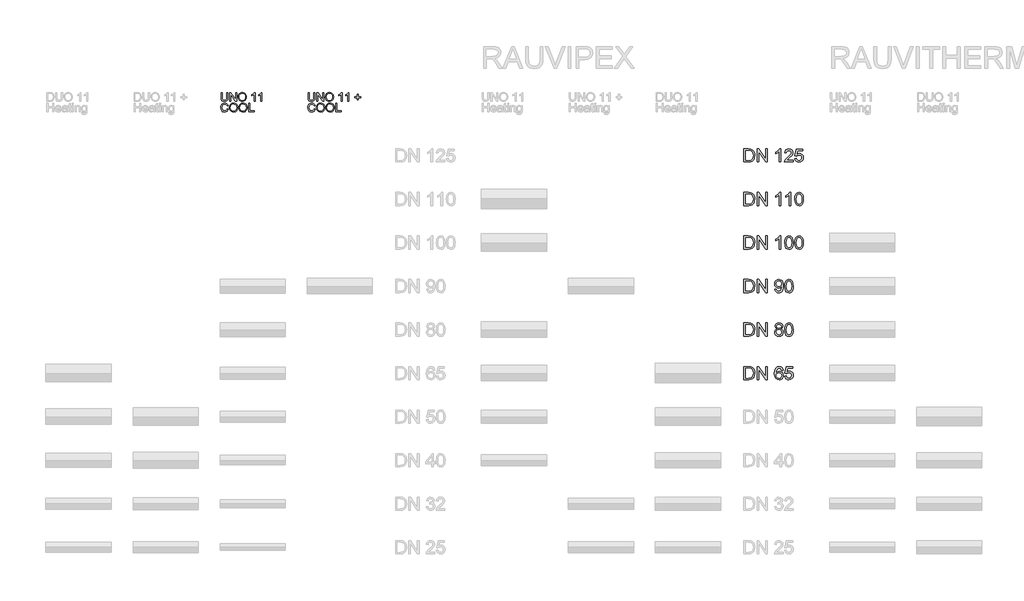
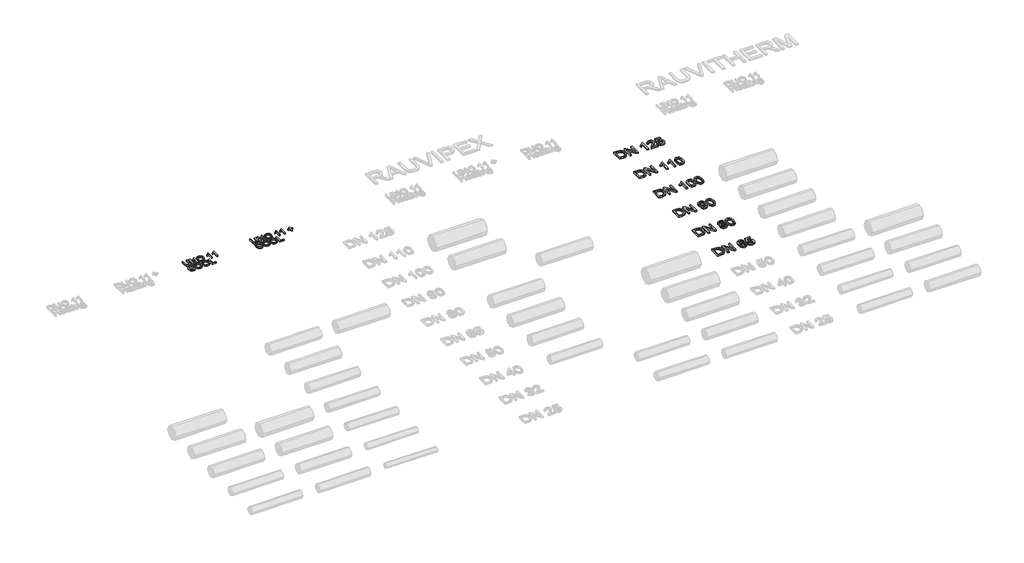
# One storey, part 37 of 44: 8 proxies.
"""IFC4 building model written with IfcOpenShell, lengths in millimetres."""

import ifcopenshell
import ifcopenshell.guid

model = None  # the IFC model being written
_history = None  # IfcOwnerHistory: only IFC2X3 demands one
_inside = {}  # id of a spatial element -> (the spatial element, [elements in it])
_under = {}  # id of a project, library or spatial element -> (it, [spatial elements below it])
_declared = {}  # id of a project -> (the project, [libraries it declares])
_typed = {}  # id of a type object -> (the type object, [elements of that type])
_made_of = {}  # id of a material, layer set ... -> (it, [elements and type objects made of it])


def new_model(schema):
    """Start an empty IFC model of exactly this schema.

    Asked for "IFC4X3", IfcOpenShell would pick the latest addendum, in which some entities
    have other attributes; the version numbers below select the first issue.
    IFC2X3 requires an IfcOwnerHistory on every rooted entity: one is made here for all.
    """
    global model, _history
    if schema == "IFC4X3":
        model = ifcopenshell.file(schema_version=(4, 3, 0, 0))
    else:
        model = ifcopenshell.file(schema=schema)
    _inside.clear()
    _under.clear()
    _declared.clear()
    _typed.clear()
    _made_of.clear()
    _history = None
    if model.schema == "IFC2X3":
        org = make("IfcOrganization", Name="unknown")
        user = make(
            "IfcPersonAndOrganization",
            ThePerson=make("IfcPerson", FamilyName="unknown"),
            TheOrganization=org,
        )
        app = make(
            "IfcApplication",
            ApplicationDeveloper=org,
            Version="unknown",
            ApplicationFullName="unknown",
            ApplicationIdentifier="unknown",
        )
        _history = make(
            "IfcOwnerHistory",
            OwningUser=user,
            OwningApplication=app,
            ChangeAction="ADDED",
            CreationDate=0,
        )
    return model


def make(cls, **values):
    """One entity of the class cls with the attributes given. An attribute that is None is left unset."""
    return model.create_entity(
        cls, **{name: value for name, value in values.items() if value is not None}
    )


def rooted(cls, **values):
    """An entity with a GlobalId (a new one), such as an element, a storey or a relation."""
    return make(cls, GlobalId=ifcopenshell.guid.new(), OwnerHistory=_history, **values)


def si_unit(unit_type, name, prefix=None):
    """IfcSIUnit, for example si_unit("LENGTHUNIT", "METRE", prefix="MILLI")."""
    return make("IfcSIUnit", UnitType=unit_type, Prefix=prefix, Name=name)


def assignment(units):
    """IfcUnitAssignment: the units of a project."""
    return None if units is None else make("IfcUnitAssignment", Units=units)


def point(xyz):
    """IfcCartesianPoint."""
    return None if xyz is None else make("IfcCartesianPoint", Coordinates=xyz)


def direction(xyz):
    """IfcDirection."""
    return None if xyz is None else make("IfcDirection", DirectionRatios=xyz)


def frame(location, z_axis=None, x_axis=None):
    """IfcAxis2Placement3D, a coordinate frame: its origin and axes. An axis left out is left unset."""
    return make(
        "IfcAxis2Placement3D",
        Location=point(location),
        Axis=direction(z_axis),
        RefDirection=direction(x_axis),
    )


def origin():
    """The frame at (0, 0, 0) with its axes left unset."""
    return frame((0.0, 0.0, 0.0))


def origin_with_axes():
    """The frame at (0, 0, 0) with the z axis (0, 0, 1) and the x axis (1, 0, 0) written out."""
    return frame((0.0, 0.0, 0.0), z_axis=(0.0, 0.0, 1.0), x_axis=(1.0, 0.0, 0.0))


def place(relative_to, where):
    """IfcLocalPlacement: puts the frame where relative to a parent placement (None: the world)."""
    return make(
        "IfcLocalPlacement", PlacementRelTo=relative_to, RelativePlacement=where
    )


def context(
    kind, dimensions, precision=None, world=None, true_north=None, identifier=None
):
    """IfcGeometricRepresentationContext, for example the 3D "Model" context."""
    return make(
        "IfcGeometricRepresentationContext",
        ContextIdentifier=identifier,
        ContextType=kind,
        CoordinateSpaceDimension=dimensions,
        Precision=precision,
        WorldCoordinateSystem=world,
        TrueNorth=true_north,
    )


def project(units=None, contexts=None):
    """IfcProject with its units and contexts."""
    return rooted(
        "IfcProject",
        Name="project",
        RepresentationContexts=contexts,
        UnitsInContext=assignment(units),
    )


def spatial(cls, under=None, at=None, **own):
    """A site, building, storey or space (cls), placed at a placement, below another one or the project."""
    s = rooted(cls, ObjectPlacement=at, **own)
    if under is not None:
        _under.setdefault(under.id(), (under, []))[1].append(s)
    return s


def polyline(points):
    """IfcPolyline through the points."""
    return make("IfcPolyline", Points=[point(p) for p in points])


def outline(outer, holes=None, kind="AREA"):
    """IfcArbitraryClosedProfileDef: a profile drawn as a closed curve; with holes, ...WithVoids."""
    if holes is None:
        return make("IfcArbitraryClosedProfileDef", ProfileType=kind, OuterCurve=outer)
    return make(
        "IfcArbitraryProfileDefWithVoids",
        ProfileType=kind,
        OuterCurve=outer,
        InnerCurves=holes,
    )


def extrude(swept, where, along, depth):
    """IfcExtrudedAreaSolid: the profile swept, set in the frame where, extruded along a direction by depth."""
    return make(
        "IfcExtrudedAreaSolid",
        SweptArea=swept,
        Position=where,
        ExtrudedDirection=direction(along),
        Depth=depth,
    )


def shape(context_of_items, identifier, shape_type, items):
    """IfcShapeRepresentation: the items that make up one representation, for example the "Body"."""
    return make(
        "IfcShapeRepresentation",
        ContextOfItems=context_of_items,
        RepresentationIdentifier=identifier,
        RepresentationType=shape_type,
        Items=items,
    )


def made_of(thing, what):
    """Note that an element or type object is made of a material, layer set ...; save() writes the relation."""
    if what is not None:
        _made_of.setdefault(what.id(), (what, []))[1].append(thing)
    return thing


def element(
    cls,
    number,
    at=None,
    inside=None,
    cuts=None,
    type_object=None,
    material=None,
    context=None,
    identifier="Body",
    shape_type=None,
    held_by="IfcProductDefinitionShape",
    body=None,
    shapes=None,
    **own,
):
    """One element of the class cls, such as IfcWall. Its Tag is "e" and its number.

    at: its placement. inside: the storey or other place that contains it. cuts: it is an
    opening in that element (IfcRelVoidsElement). A single representation is given by context,
    identifier, shape_type and body (its items); several are given by shapes. held_by: the class
    of the entity that holds the representations. save() writes the other relations.
    """
    e = rooted(cls, Tag="e%d" % number, ObjectPlacement=at, **own)
    if body is not None:
        shapes = [shape(context, identifier, shape_type, body)]
    if shapes is not None:
        e.Representation = make(held_by, Representations=shapes)
    if inside is not None:
        _inside.setdefault(inside.id(), (inside, []))[1].append(e)
    if cuts is not None:
        rooted(
            "IfcRelVoidsElement", RelatingBuildingElement=cuts, RelatedOpeningElement=e
        )
    if type_object is not None:
        _typed.setdefault(type_object.id(), (type_object, []))[1].append(e)
    return made_of(e, material)


def aggregate(whole, parts):
    """IfcRelAggregates: a whole, such as a stair, and the parts it consists of."""
    return rooted("IfcRelAggregates", RelatingObject=whole, RelatedObjects=parts)


def save(model, path):
    """Write the relations noted so far, then the file.

    IfcRelAggregates (storeys below a building ...), IfcRelContainedInSpatialStructure (elements
    in a storey), IfcRelDefinesByType, IfcRelAssociatesMaterial and IfcRelDeclares: one each for
    every whole, place, type object, material and project.
    """
    for whole, parts in _under.values():
        aggregate(whole, parts)
    for where, things in _inside.values():
        rooted(
            "IfcRelContainedInSpatialStructure",
            RelatedElements=things,
            RelatingStructure=where,
        )
    for kind, things in _typed.values():
        rooted("IfcRelDefinesByType", RelatedObjects=things, RelatingType=kind)
    for what, things in _made_of.values():
        rooted("IfcRelAssociatesMaterial", RelatedObjects=things, RelatingMaterial=what)
    for by, libraries in _declared.values():
        rooted("IfcRelDeclares", RelatingContext=by, RelatedDefinitions=libraries)
    model.write(path)


model = new_model("IFC4")

# Units and contexts
model_context = context("Model", 3, world=origin())
ifc_project = project(units=[si_unit("LENGTHUNIT", "METRE", prefix="MILLI")], contexts=[model_context])

# Site, building, storey
site = spatial("IfcSite", under=ifc_project)
building = spatial("IfcBuilding", under=site)
storey = spatial("IfcBuildingStorey", under=building, Name="REHAU Starting view", Elevation=0.0)

# Proxies
placement = place(None, origin())
element("IfcBuildingElementProxy", 1, Name="100", ObjectType="100", at=placement, inside=storey, context=model_context, shape_type="SweptSolid", body=[
    extrude(outline(polyline([(24076.9118625, 20222.431128), (24089.4689012, 20222.431128), (24089.4689012, 20164.477451), (24086.0598614, 20140.4547567), (24073.7726028, 20125.9847316), (24063.5086951, 20121.8000739), (24050.4734097, 20120.405188), (24027.529836, 20125.2612303), (24019.8901532, 20131.2055902), (24014.8011189, 20139.3265853), (24010.9874089, 20164.477451), (24010.9874089, 20222.431128), (24023.5444477, 20222.431128), (24023.5444477, 20164.9189094), (24026.0215198, 20145.7767829), (24034.5318566, 20136.2976902), (24049.2961874, 20132.9622268), (24062.067824, 20134.6115644), (24070.5597667, 20139.5595772), (24075.3238385, 20149.1980855), (24076.9118625, 20164.9189094), (24076.9118625, 20222.431128)])), origin_with_axes(), (0.0, 0.0, 1.0), 20.0),
    extrude(outline(polyline([(24111.4437191, 20121.9748178), (24111.4437191, 20222.431128), (24124.8836746, 20222.431128), (24177.3681726, 20142.8459897), (24177.3681726, 20222.431128), (24189.9252114, 20222.431128), (24189.9252114, 20121.9748178), (24176.4852558, 20121.9748178), (24124.0007578, 20201.5844816), (24124.0007578, 20121.9748178), (24111.4437191, 20121.9748178)])), origin_with_axes(), (0.0, 0.0, 1.0), 20.0),
    extrude(outline(polyline([(24207.1911397, 20170.8785977), (24210.5388658, 20193.0925389), (24220.5820443, 20209.8986147), (24235.9165921, 20220.4752221), (24255.1384264, 20224.0007578), (24268.3147332, 20222.3452889), (24280.1298766, 20217.3788819), (24289.9400631, 20209.4510249), (24297.1014993, 20198.9112058), (24301.479295, 20186.2683279), (24302.9385603, 20172.0312947), (24301.402653, 20157.6041891), (24296.794931, 20144.7835015), (24289.369846, 20134.2252883), (24279.3818499, 20126.5856055), (24267.667874, 20121.9502924), (24255.06485, 20120.405188), (24241.6862081, 20122.1127736), (24229.8036197, 20127.2355304), (24220.0179586, 20135.3105402), (24212.9300988, 20145.8748848), (24207.1911397, 20170.8785977)]), holes=[polyline([(24219.7481785, 20170.7559704), (24222.2589731, 20155.0412778), (24229.7913569, 20143.0667189), (24241.1129253, 20135.4883498), (24254.9912736, 20132.9622268), (24269.071957, 20135.5128753), (24280.4119195, 20143.1648208), (24287.889121, 20155.5072617), (24290.3815215, 20172.1293965), (24286.1140904, 20192.8534156), (24273.6428907, 20206.575414), (24255.2120028, 20211.4437191), (24241.7046022, 20209.0984714), (24230.2205526, 20202.0627282), (24222.366272, 20189.5455433), (24219.7481785, 20170.7559704)])]), origin_with_axes(), (0.0, 0.0, 1.0), 20.0),
    extrude(outline(polyline([(24401.8252406, 20121.9748178), (24389.2682018, 20121.9748178), (24389.2682018, 20200.2601064), (24377.3733507, 20191.7865578), (24364.1541243, 20185.4467247), (24364.1541243, 20197.3170505), (24382.5604868, 20209.0647488), (24393.7318367, 20222.431128), (24401.8252406, 20222.431128), (24401.8252406, 20121.9748178)])), origin_with_axes(), (0.0, 0.0, 1.0), 20.0),
    extrude(outline(polyline([(24478.7371031, 20121.9748178), (24466.1800643, 20121.9748178), (24466.1800643, 20200.2601064), (24454.2852131, 20191.7865578), (24441.0659868, 20185.4467247), (24441.0659868, 20197.3170505), (24459.4723492, 20209.0647488), (24470.6436992, 20222.431128), (24478.7371031, 20222.431128), (24478.7371031, 20121.9748178)])), origin_with_axes(), (0.0, 0.0, 1.0), 20.0),
    extrude(outline(polyline([(24081.620752, 20035.709079), (24094.1777908, 20032.4717174), (24088.3836493, 20017.8392111), (24079.2908327, 20007.1491734), (24067.3469306, 20000.610071), (24052.9995328, 19998.4303702), (24038.4344714, 20000.0797078), (24026.8676484, 20005.0277206), (24018.0016923, 20013.1027304), (24011.5392319, 20024.1330589), (24006.2785194, 20050.9884445), (24007.7653758, 20065.6362793), (24012.225945, 20078.2852886), (24019.427235, 20088.5338678), (24029.136254, 20095.9804125), (24040.6509605, 20100.5145581), (24053.2693129, 20102.02594), (24067.0372966, 20100.0700341), (24078.4201786, 20094.2023162), (24087.0623398, 20084.7845372), (24092.6081609, 20072.1784475), (24080.0511222, 20069.1863406), (24069.7504263, 20084.6251216), (24052.7788036, 20089.4689012), (24033.133905, 20084.0978241), (24022.0361315, 20069.6768499), (24018.8355582, 20051.01297), (24022.6247427, 20029.3815087), (24034.421492, 20015.5614084), (24051.748734, 20010.9874089), (24062.2303052, 20012.544776), (24070.9644369, 20017.2168774), (24077.5587216, 20024.954662), (24081.620752, 20035.709079)])), origin_with_axes(), (0.0, 0.0, 1.0), 20.0),
    extrude(outline(polyline([(24106.7348295, 20048.9037799), (24110.0825557, 20071.117721), (24120.1257342, 20087.9237968), (24135.460282, 20098.5004042), (24154.6821162, 20102.02594), (24167.858423, 20100.370471), (24179.6735664, 20095.4040641), (24189.483753, 20087.4762071), (24196.6451892, 20076.9363879), (24201.0229849, 20064.29351), (24202.4822501, 20050.0564768), (24200.9463428, 20035.6293712), (24196.3386208, 20022.8086837), (24188.9135359, 20012.2504704), (24178.9255397, 20004.6107877), (24167.2115639, 19999.9754745), (24154.6085398, 19998.4303702), (24141.2298979, 20000.1379557), (24129.3473095, 20005.2607125), (24119.5616484, 20013.3357223), (24112.4737887, 20023.900067), (24106.7348295, 20048.9037799)]), holes=[polyline([(24119.2918683, 20048.7811526), (24121.8026629, 20033.06646), (24129.3350468, 20021.0919011), (24140.6566152, 20013.513532), (24154.5349634, 20010.9874089), (24168.6156468, 20013.5380574), (24179.9556093, 20021.1900029), (24187.4328109, 20033.5324439), (24189.9252114, 20050.1545787), (24185.6577802, 20070.8785977), (24173.1865806, 20084.6005962), (24154.7556926, 20089.4689012), (24141.248292, 20087.1236535), (24129.7642424, 20080.0879103), (24121.9099618, 20067.5707255), (24119.2918683, 20048.7811526)])]), origin_with_axes(), (0.0, 0.0, 1.0), 20.0),
    extrude(outline(polyline([(24215.0392889, 20048.9037799), (24218.3870151, 20071.117721), (24228.4301935, 20087.9237968), (24243.7647414, 20098.5004042), (24262.9865756, 20102.02594), (24276.1628824, 20100.370471), (24287.9780258, 20095.4040641), (24297.7882124, 20087.4762071), (24304.9496485, 20076.9363879), (24309.3274443, 20064.29351), (24310.7867095, 20050.0564768), (24309.2508022, 20035.6293712), (24304.6430802, 20022.8086837), (24297.2179953, 20012.2504704), (24287.2299991, 20004.6107877), (24275.5160232, 19999.9754745), (24262.9129992, 19998.4303702), (24249.5343573, 20000.1379557), (24237.6517689, 20005.2607125), (24227.8661078, 20013.3357223), (24220.778248, 20023.900067), (24215.0392889, 20048.9037799)]), holes=[polyline([(24227.5963277, 20048.7811526), (24230.1071223, 20033.06646), (24237.6395062, 20021.0919011), (24248.9610746, 20013.513532), (24262.8394228, 20010.9874089), (24276.9201062, 20013.5380574), (24288.2600687, 20021.1900029), (24295.7372702, 20033.5324439), (24298.2296708, 20050.1545787), (24293.9622396, 20070.8785977), (24281.49104, 20084.6005962), (24263.060152, 20089.4689012), (24249.5527514, 20087.1236535), (24238.0687018, 20080.0879103), (24230.2144212, 20067.5707255), (24227.5963277, 20048.7811526)])]), origin_with_axes(), (0.0, 0.0, 1.0), 20.0),
    extrude(outline(polyline([(24328.0526378, 20000.0), (24328.0526378, 20100.4563101), (24340.6096766, 20100.4563101), (24340.6096766, 20012.5570388), (24390.8378317, 20012.5570388), (24390.8378317, 20000.0), (24328.0526378, 20000.0)])), origin_with_axes(), (0.0, 0.0, 1.0), 20.0),
])
element("IfcBuildingElementProxy", 2, Name="100", ObjectType="100", at=placement, inside=storey, context=model_context, shape_type="SweptSolid", body=[
    extrude(outline(polyline([(25076.9118625, 20222.431128), (25089.4689012, 20222.431128), (25089.4689012, 20164.477451), (25086.0598614, 20140.4547567), (25073.7726028, 20125.9847316), (25063.5086951, 20121.8000739), (25050.4734097, 20120.405188), (25027.529836, 20125.2612303), (25019.8901532, 20131.2055902), (25014.8011189, 20139.3265853), (25010.9874089, 20164.477451), (25010.9874089, 20222.431128), (25023.5444477, 20222.431128), (25023.5444477, 20164.9189094), (25026.0215198, 20145.7767829), (25034.5318566, 20136.2976902), (25049.2961874, 20132.9622268), (25062.067824, 20134.6115644), (25070.5597667, 20139.5595772), (25075.3238385, 20149.1980855), (25076.9118625, 20164.9189094), (25076.9118625, 20222.431128)])), origin_with_axes(), (0.0, 0.0, 1.0), 20.0),
    extrude(outline(polyline([(25111.4437191, 20121.9748178), (25111.4437191, 20222.431128), (25124.8836746, 20222.431128), (25177.3681726, 20142.8459897), (25177.3681726, 20222.431128), (25189.9252114, 20222.431128), (25189.9252114, 20121.9748178), (25176.4852558, 20121.9748178), (25124.0007578, 20201.5844816), (25124.0007578, 20121.9748178), (25111.4437191, 20121.9748178)])), origin_with_axes(), (0.0, 0.0, 1.0), 20.0),
    extrude(outline(polyline([(25207.1911397, 20170.8785977), (25210.5388658, 20193.0925389), (25220.5820443, 20209.8986147), (25235.9165921, 20220.4752221), (25255.1384264, 20224.0007578), (25268.3147332, 20222.3452889), (25280.1298766, 20217.3788819), (25289.9400631, 20209.4510249), (25297.1014993, 20198.9112058), (25301.479295, 20186.2683279), (25302.9385603, 20172.0312947), (25301.402653, 20157.6041891), (25296.794931, 20144.7835015), (25289.369846, 20134.2252883), (25279.3818499, 20126.5856055), (25267.667874, 20121.9502924), (25255.06485, 20120.405188), (25241.6862081, 20122.1127736), (25229.8036197, 20127.2355304), (25220.0179586, 20135.3105402), (25212.9300988, 20145.8748848), (25207.1911397, 20170.8785977)]), holes=[polyline([(25219.7481785, 20170.7559704), (25222.2589731, 20155.0412778), (25229.7913569, 20143.0667189), (25241.1129253, 20135.4883498), (25254.9912736, 20132.9622268), (25269.071957, 20135.5128753), (25280.4119195, 20143.1648208), (25287.889121, 20155.5072617), (25290.3815215, 20172.1293965), (25286.1140904, 20192.8534156), (25273.6428907, 20206.575414), (25255.2120028, 20211.4437191), (25241.7046022, 20209.0984714), (25230.2205526, 20202.0627282), (25222.366272, 20189.5455433), (25219.7481785, 20170.7559704)])]), origin_with_axes(), (0.0, 0.0, 1.0), 20.0),
    extrude(outline(polyline([(25401.8252406, 20121.9748178), (25389.2682018, 20121.9748178), (25389.2682018, 20200.2601064), (25377.3733507, 20191.7865578), (25364.1541243, 20185.4467247), (25364.1541243, 20197.3170505), (25382.5604868, 20209.0647488), (25393.7318367, 20222.431128), (25401.8252406, 20222.431128), (25401.8252406, 20121.9748178)])), origin_with_axes(), (0.0, 0.0, 1.0), 20.0),
    extrude(outline(polyline([(25478.7371031, 20121.9748178), (25466.1800643, 20121.9748178), (25466.1800643, 20200.2601064), (25454.2852131, 20191.7865578), (25441.0659868, 20185.4467247), (25441.0659868, 20197.3170505), (25459.4723492, 20209.0647488), (25470.6436992, 20222.431128), (25478.7371031, 20222.431128), (25478.7371031, 20121.9748178)])), origin_with_axes(), (0.0, 0.0, 1.0), 20.0),
    extrude(outline(polyline([(25576.0541535, 20137.6711163), (25576.0541535, 20164.3548237), (25549.3704461, 20164.3548237), (25549.3704461, 20176.9118625), (25576.0541535, 20176.9118625), (25576.0541535, 20203.5955698), (25588.6111923, 20203.5955698), (25588.6111923, 20176.9118625), (25615.2948997, 20176.9118625), (25615.2948997, 20164.3548237), (25588.6111923, 20164.3548237), (25588.6111923, 20137.6711163), (25576.0541535, 20137.6711163)])), origin_with_axes(), (0.0, 0.0, 1.0), 20.0),
    extrude(outline(polyline([(25081.620752, 20035.709079), (25094.1777908, 20032.4717174), (25088.3836493, 20017.8392111), (25079.2908327, 20007.1491734), (25067.3469306, 20000.610071), (25052.9995328, 19998.4303702), (25038.4344714, 20000.0797078), (25026.8676484, 20005.0277206), (25018.0016923, 20013.1027304), (25011.5392319, 20024.1330589), (25006.2785194, 20050.9884445), (25007.7653758, 20065.6362793), (25012.225945, 20078.2852886), (25019.427235, 20088.5338678), (25029.136254, 20095.9804125), (25040.6509605, 20100.5145581), (25053.2693129, 20102.02594), (25067.0372966, 20100.0700341), (25078.4201786, 20094.2023162), (25087.0623398, 20084.7845372), (25092.6081609, 20072.1784475), (25080.0511222, 20069.1863406), (25069.7504263, 20084.6251216), (25052.7788036, 20089.4689012), (25033.133905, 20084.0978241), (25022.0361315, 20069.6768499), (25018.8355582, 20051.01297), (25022.6247427, 20029.3815087), (25034.421492, 20015.5614084), (25051.748734, 20010.9874089), (25062.2303052, 20012.544776), (25070.9644369, 20017.2168774), (25077.5587216, 20024.954662), (25081.620752, 20035.709079)])), origin_with_axes(), (0.0, 0.0, 1.0), 20.0),
    extrude(outline(polyline([(25106.7348295, 20048.9037799), (25110.0825557, 20071.117721), (25120.1257342, 20087.9237968), (25135.460282, 20098.5004042), (25154.6821162, 20102.02594), (25167.858423, 20100.370471), (25179.6735664, 20095.4040641), (25189.483753, 20087.4762071), (25196.6451892, 20076.9363879), (25201.0229849, 20064.29351), (25202.4822501, 20050.0564768), (25200.9463428, 20035.6293712), (25196.3386208, 20022.8086837), (25188.9135359, 20012.2504704), (25178.9255397, 20004.6107877), (25167.2115639, 19999.9754745), (25154.6085398, 19998.4303702), (25141.2298979, 20000.1379557), (25129.3473095, 20005.2607125), (25119.5616484, 20013.3357223), (25112.4737887, 20023.900067), (25106.7348295, 20048.9037799)]), holes=[polyline([(25119.2918683, 20048.7811526), (25121.8026629, 20033.06646), (25129.3350468, 20021.0919011), (25140.6566152, 20013.513532), (25154.5349634, 20010.9874089), (25168.6156468, 20013.5380574), (25179.9556093, 20021.1900029), (25187.4328109, 20033.5324439), (25189.9252114, 20050.1545787), (25185.6577802, 20070.8785977), (25173.1865806, 20084.6005962), (25154.7556926, 20089.4689012), (25141.248292, 20087.1236535), (25129.7642424, 20080.0879103), (25121.9099618, 20067.5707255), (25119.2918683, 20048.7811526)])]), origin_with_axes(), (0.0, 0.0, 1.0), 20.0),
    extrude(outline(polyline([(25215.0392889, 20048.9037799), (25218.3870151, 20071.117721), (25228.4301935, 20087.9237968), (25243.7647414, 20098.5004042), (25262.9865756, 20102.02594), (25276.1628824, 20100.370471), (25287.9780258, 20095.4040641), (25297.7882124, 20087.4762071), (25304.9496485, 20076.9363879), (25309.3274443, 20064.29351), (25310.7867095, 20050.0564768), (25309.2508022, 20035.6293712), (25304.6430802, 20022.8086837), (25297.2179953, 20012.2504704), (25287.2299991, 20004.6107877), (25275.5160232, 19999.9754745), (25262.9129992, 19998.4303702), (25249.5343573, 20000.1379557), (25237.6517689, 20005.2607125), (25227.8661078, 20013.3357223), (25220.778248, 20023.900067), (25215.0392889, 20048.9037799)]), holes=[polyline([(25227.5963277, 20048.7811526), (25230.1071223, 20033.06646), (25237.6395062, 20021.0919011), (25248.9610746, 20013.513532), (25262.8394228, 20010.9874089), (25276.9201062, 20013.5380574), (25288.2600687, 20021.1900029), (25295.7372702, 20033.5324439), (25298.2296708, 20050.1545787), (25293.9622396, 20070.8785977), (25281.49104, 20084.6005962), (25263.060152, 20089.4689012), (25249.5527514, 20087.1236535), (25238.0687018, 20080.0879103), (25230.2144212, 20067.5707255), (25227.5963277, 20048.7811526)])]), origin_with_axes(), (0.0, 0.0, 1.0), 20.0),
    extrude(outline(polyline([(25328.0526378, 20000.0), (25328.0526378, 20100.4563101), (25340.6096766, 20100.4563101), (25340.6096766, 20012.5570388), (25390.8378317, 20012.5570388), (25390.8378317, 20000.0), (25328.0526378, 20000.0)])), origin_with_axes(), (0.0, 0.0, 1.0), 20.0),
])
element("IfcBuildingElementProxy", 3, Name="150", ObjectType="150", at=placement, inside=storey, context=model_context, shape_type="SweptSolid", body=[
    extrude(outline(polyline([(30016.4811134, 16925.0), (30016.4811134, 17075.6844652), (30068.4628393, 17075.6844652), (30095.3550131, 17073.5139615), (30117.5015093, 17062.735019), (30127.9217668, 17051.2571007), (30135.343786, 17036.9832793), (30139.7859611, 17020.1894663), (30141.2666861, 17001.151573), (30137.2567724, 16970.7461261), (30126.9560765, 16948.8019651), (30113.1972899, 16935.135149), (30095.1894663, 16927.575174), (30070.9644369, 16925.0), (30016.4811134, 16925.0)]), holes=[polyline([(30035.3166715, 16943.8355582), (30068.6467803, 16943.8355582), (30092.8902038, 16946.5578849), (30106.8697196, 16954.2466186), (30118.3292437, 16972.9534181), (30122.431128, 17001.4458786), (30120.4215726, 17021.9736939), (30114.3929064, 17037.1304321), (30105.4855636, 17047.5414926), (30094.8399784, 17053.8322747), (30068.1317455, 17056.8489071), (30035.3166715, 17056.8489071), (30035.3166715, 16943.8355582)])]), origin_with_axes(), (0.0, 0.0, 1.0), 20.0),
    extrude(outline(polyline([(30167.1655786, 16925.0), (30167.1655786, 17075.6844652), (30187.3255119, 17075.6844652), (30266.0522589, 16956.3067578), (30266.0522589, 17075.6844652), (30284.8878171, 17075.6844652), (30284.8878171, 16925.0), (30264.7278837, 16925.0), (30186.0011368, 17044.4144956), (30186.0011368, 16925.0), (30167.1655786, 16925.0)])), origin_with_axes(), (0.0, 0.0, 1.0), 20.0),
    extrude(outline(polyline([(30466.1800643, 17035.6589041), (30447.3445061, 17033.3044594), (30440.2075954, 17049.0130206), (30431.6635361, 17054.8899354), (30421.3352491, 17056.8489071), (30404.3391009, 17052.2871703), (30391.4816252, 17035.1622635), (30387.5774775, 17021.1321639), (30386.1289421, 17001.5930314), (30402.7388142, 17016.6210109), (30423.3218118, 17021.5322355), (30440.7226302, 17018.1753123), (30455.3275454, 17008.1045427), (30465.2327682, 16992.7178783), (30468.5345091, 16973.4132706), (30466.9802076, 16959.9257969), (30462.3173033, 16947.4224076), (30454.9320723, 16936.8182091), (30445.2107906, 16929.0283078), (30433.5949166, 16924.2412434), (30420.5259087, 16922.6455552), (30399.1565633, 16926.8761982), (30382.1374225, 16939.568127), (30371.0043936, 16961.9721405), (30367.293384, 16995.3390375), (30371.4136623, 17032.8538039), (30383.7744974, 17058.504376), (30400.6510839, 17071.3894429), (30422.5124715, 17075.6844652), (30439.0395701, 17073.0265178), (30452.2741249, 17065.0526756), (30461.5447511, 17052.3883379), (30466.1800643, 17035.6589041)]), holes=[polyline([(30386.1289421, 16973.7075762), (30390.4883438, 16957.3920097), (30402.0766266, 16945.5462094), (30419.0543807, 16941.4811134), (30431.4841936, 16943.5872378), (30441.2560591, 16949.9056111), (30447.588228, 16959.8384249), (30449.6989509, 16972.7878712), (30447.6158191, 16985.2176841), (30441.3664237, 16994.695244), (30431.4290113, 17000.696319), (30418.2818285, 17002.6966774), (30405.8704097, 17000.696319), (30395.4915389, 16994.695244), (30388.4695913, 16985.4476103), (30386.1289421, 16973.7075762)])]), origin_with_axes(), (0.0, 0.0, 1.0), 20.0),
    extrude(outline(polyline([(30485.0156224, 16965.0255611), (30503.8511806, 16967.3800058), (30507.3092713, 16956.072233), (30513.3425361, 16947.9742306), (30521.9233836, 16943.1043927), (30533.0242228, 16941.4811134), (30546.525492, 16943.7389891), (30556.6422469, 16950.5126164), (30562.9606202, 16961.0202459), (30565.0667446, 16974.4801284), (30563.0939774, 16987.1536631), (30557.1756758, 16996.8473537), (30547.2658546, 17003.00018), (30533.3185284, 17005.0511222), (30516.7822327, 17001.7769724), (30506.2056254, 16993.2788983), (30487.3700672, 16995.6333431), (30503.8511806, 17073.3300205), (30576.8389684, 17073.3300205), (30576.8389684, 17054.4944623), (30519.0814952, 17054.4944623), (30511.0248795, 17012.9973732), (30524.4801635, 17021.1643535), (30538.5792409, 17023.8866803), (30556.1777959, 17020.511363), (30570.7873096, 17010.3854111), (30580.6235545, 16994.9527614), (30583.9023027, 16975.6573507), (30580.9500497, 16956.8217926), (30572.0932907, 16940.7085612), (30555.1339307, 16927.1613067), (30532.9506464, 16922.6455552), (30514.4507806, 16925.5472245), (30499.7125081, 16934.2522322), (30489.6095489, 16947.7489029), (30485.0156224, 16965.0255611)])), origin_with_axes(), (0.0, 0.0, 1.0), 20.0),
])
element("IfcBuildingElementProxy", 4, Name="150", ObjectType="150", at=placement, inside=storey, context=model_context, shape_type="SweptSolid", body=[
    extrude(outline(polyline([(30016.4811134, 17425.0), (30016.4811134, 17575.6844652), (30068.4628393, 17575.6844652), (30095.3550131, 17573.5139615), (30117.5015093, 17562.735019), (30127.9217668, 17551.2571007), (30135.343786, 17536.9832793), (30139.7859611, 17520.1894663), (30141.2666861, 17501.151573), (30137.2567724, 17470.7461261), (30126.9560765, 17448.8019651), (30113.1972899, 17435.135149), (30095.1894663, 17427.575174), (30070.9644369, 17425.0), (30016.4811134, 17425.0)]), holes=[polyline([(30035.3166715, 17443.8355582), (30068.6467803, 17443.8355582), (30092.8902038, 17446.5578849), (30106.8697196, 17454.2466186), (30118.3292437, 17472.9534181), (30122.431128, 17501.4458786), (30120.4215726, 17521.9736939), (30114.3929064, 17537.1304321), (30105.4855636, 17547.5414926), (30094.8399784, 17553.8322747), (30068.1317455, 17556.8489071), (30035.3166715, 17556.8489071), (30035.3166715, 17443.8355582)])]), origin_with_axes(), (0.0, 0.0, 1.0), 20.0),
    extrude(outline(polyline([(30167.1655786, 17425.0), (30167.1655786, 17575.6844652), (30187.3255119, 17575.6844652), (30266.0522589, 17456.3067578), (30266.0522589, 17575.6844652), (30284.8878171, 17575.6844652), (30284.8878171, 17425.0), (30264.7278837, 17425.0), (30186.0011368, 17544.4144956), (30186.0011368, 17425.0), (30167.1655786, 17425.0)])), origin_with_axes(), (0.0, 0.0, 1.0), 20.0),
    extrude(outline(polyline([(30397.0918256, 17507.9941781), (30379.9301305, 17519.6928256), (30374.3567183, 17537.9029843), (30377.3917448, 17552.6274612), (30386.4968241, 17564.7951582), (30400.6510839, 17572.9621385), (30418.8336515, 17575.6844652), (30437.1265837, 17572.8977591), (30451.4647845, 17564.5376408), (30460.7354108, 17552.1768057), (30463.8256195, 17537.3879495), (30458.3257837, 17519.6376433), (30441.6423352, 17507.9941781), (30453.2352166, 17502.0206942), (30461.6735098, 17493.223716), (30466.8192593, 17482.0263078), (30468.5345091, 17468.8515338), (30465.1316006, 17450.8437102), (30454.9228752, 17435.9628835), (30439.1591317, 17425.9748873), (30419.0911689, 17422.6455552), (30399.0232061, 17425.9886829), (30383.2594626, 17436.0180658), (30373.0507372, 17451.0414467), (30369.6478288, 17469.3665686), (30371.4320564, 17483.0517788), (30376.7847395, 17494.3089679), (30385.4299663, 17502.7518597), (30397.0918256, 17507.9941781)]), holes=[polyline([(30393.1922764, 17537.3511613), (30394.861541, 17529.1289987), (30399.8693347, 17522.5623051), (30408.0685046, 17518.2580858), (30419.3118981, 17516.823346), (30430.2931757, 17518.2488887), (30438.3681855, 17522.5255169), (30443.3345924, 17528.8714813), (30444.9900614, 17536.5050327), (30443.2794101, 17544.4282912), (30438.1474563, 17550.9811892), (30429.9620819, 17555.3819776), (30419.0911689, 17556.8489071), (30408.1512781, 17555.4141673), (30399.9796993, 17551.1099479), (30394.8891321, 17544.8007717), (30393.1922764, 17537.3511613)]), polyline([(30388.4833869, 17470.0287562), (30391.628778, 17455.8469053), (30402.7572083, 17445.2335097), (30419.2383217, 17441.4811134), (30432.0590092, 17443.4538806), (30441.6791234, 17449.3721822), (30447.693994, 17458.3347073), (30449.6989509, 17469.440145), (30447.6296147, 17480.7341223), (30441.421606, 17489.8943839), (30431.5807626, 17495.9644369), (30418.6129223, 17497.9877878), (30405.9715773, 17495.992028), (30396.4480321, 17490.0047485), (30390.4745482, 17481.0192308), (30388.4833869, 17470.0287562)])]), origin_with_axes(), (0.0, 0.0, 1.0), 20.0),
    extrude(outline(polyline([(30485.0156224, 17499.128222), (30486.3997784, 17523.2474853), (30490.5522465, 17542.4831152), (30497.4316398, 17557.1294171), (30506.9965717, 17567.4806967), (30519.31602, 17573.6335231), (30534.4589626, 17575.6844652), (30556.4583059, 17570.8284229), (30571.6518323, 17556.830513), (30580.4810002, 17534.5368641), (30583.9023027, 17499.128222), (30582.5319423, 17475.1469145), (30578.420861, 17455.9572699), (30571.5828544, 17441.2971724), (30562.0317181, 17430.904506), (30549.6846787, 17424.7102929), (30534.4589626, 17422.6455552), (30514.8876404, 17426.2324047), (30500.0252078, 17436.992953), (30488.7680188, 17462.4779783), (30485.0156224, 17499.128222)]), holes=[polyline([(30503.8511806, 17499.1650102), (30506.0584726, 17469.536714), (30512.6803485, 17452.3888145), (30522.5395859, 17444.2080387), (30534.4589626, 17441.4811134), (30546.3783392, 17444.2172357), (30556.2375767, 17452.4256027), (30562.8594526, 17469.5826993), (30565.0667446, 17499.1650102), (30562.933029, 17528.1265203), (30556.5318823, 17545.407777), (30546.6910389, 17553.9886246), (30534.2382334, 17556.8489071), (30522.4476155, 17554.3289154), (30512.9746541, 17546.7689404), (30506.132049, 17528.4116288), (30503.8511806, 17499.1650102)])]), origin_with_axes(), (0.0, 0.0, 1.0), 20.0),
])
element("IfcBuildingElementProxy", 5, Name="150", ObjectType="150", at=placement, inside=storey, context=model_context, shape_type="SweptSolid", body=[
    extrude(outline(polyline([(30016.4811134, 17925.0), (30016.4811134, 18075.6844652), (30068.4628393, 18075.6844652), (30095.3550131, 18073.5139615), (30117.5015093, 18062.735019), (30127.9217668, 18051.2571007), (30135.343786, 18036.9832793), (30139.7859611, 18020.1894663), (30141.2666861, 18001.151573), (30137.2567724, 17970.7461261), (30126.9560765, 17948.8019651), (30113.1972899, 17935.135149), (30095.1894663, 17927.575174), (30070.9644369, 17925.0), (30016.4811134, 17925.0)]), holes=[polyline([(30035.3166715, 17943.8355582), (30068.6467803, 17943.8355582), (30092.8902038, 17946.5578849), (30106.8697196, 17954.2466186), (30118.3292437, 17972.9534181), (30122.431128, 18001.4458786), (30120.4215726, 18021.9736939), (30114.3929064, 18037.1304321), (30105.4855636, 18047.5414926), (30094.8399784, 18053.8322747), (30068.1317455, 18056.8489071), (30035.3166715, 18056.8489071), (30035.3166715, 17943.8355582)])]), origin_with_axes(), (0.0, 0.0, 1.0), 20.0),
    extrude(outline(polyline([(30167.1655786, 17925.0), (30167.1655786, 18075.6844652), (30187.3255119, 18075.6844652), (30266.0522589, 17956.3067578), (30266.0522589, 18075.6844652), (30284.8878171, 18075.6844652), (30284.8878171, 17925.0), (30264.7278837, 17925.0), (30186.0011368, 18044.4144956), (30186.0011368, 17925.0), (30167.1655786, 17925.0)])), origin_with_axes(), (0.0, 0.0, 1.0), 20.0),
    extrude(outline(polyline([(30372.0022735, 17962.6711163), (30390.8378317, 17965.0255611), (30394.0567991, 17954.3339906), (30399.2991176, 17947.0545256), (30406.4360283, 17942.8744664), (30415.3387726, 17941.4811134), (30430.5874813, 17945.0679628), (30440.9249653, 17954.6512888), (30447.0869887, 17971.0220376), (30449.8093155, 17992.8742281), (30449.6989509, 17996.5530481), (30434.6341832, 17982.2792266), (30413.9776092, 17976.7977849), (30396.8021185, 17980.1455111), (30382.5053045, 17990.1886895), (30372.8621977, 18005.7041127), (30369.6478288, 18025.4685729), (30373.0185475, 18045.8860236), (30383.1307039, 18061.8888904), (30398.3196318, 18072.2355715), (30416.9206651, 18075.6844652), (30430.9691588, 18073.7162966), (30443.7576567, 18067.8117905), (30454.4538257, 18058.2652528), (30462.2253328, 18045.3709888), (30466.957215, 18027.5471062), (30468.5345091, 18003.2117122), (30466.9618135, 17977.4093887), (30462.2437269, 17957.4655861), (30454.421636, 17942.4789933), (30443.5369275, 17931.5482995), (30430.0586509, 17924.8712413), (30414.4558558, 17922.6455552), (30398.3518214, 17925.271313), (30385.5035427, 17933.1485862), (30376.518025, 17945.7807342), (30372.0022735, 17962.6711163)]), holes=[polyline([(30449.6989509, 18025.9100313), (30447.6664029, 18038.6755365), (30441.5687588, 18048.4979858), (30432.1049945, 18054.7611767), (30419.9740857, 18056.8489071), (30407.3925215, 18054.6002284), (30397.3125548, 18047.8541923), (30390.6906789, 18037.5305038), (30388.4833869, 18024.5488679), (30390.5711172, 18012.9100013), (30396.8343082, 18003.6715647), (30406.6659545, 17997.6428985), (30419.4590509, 17995.6333431), (30431.4933907, 17997.6428985), (30441.1824827, 18003.6715647), (30447.5698339, 18013.2502921), (30449.6989509, 18025.9100313)])]), origin_with_axes(), (0.0, 0.0, 1.0), 20.0),
    extrude(outline(polyline([(30485.0156224, 17999.128222), (30486.3997784, 18023.2474853), (30490.5522465, 18042.4831152), (30497.4316398, 18057.1294171), (30506.9965717, 18067.4806967), (30519.31602, 18073.6335231), (30534.4589626, 18075.6844652), (30556.4583059, 18070.8284229), (30571.6518323, 18056.830513), (30580.4810002, 18034.5368641), (30583.9023027, 17999.128222), (30582.5319423, 17975.1469145), (30578.420861, 17955.9572699), (30571.5828544, 17941.2971724), (30562.0317181, 17930.904506), (30549.6846787, 17924.7102929), (30534.4589626, 17922.6455552), (30514.8876404, 17926.2324047), (30500.0252078, 17936.992953), (30488.7680188, 17962.4779783), (30485.0156224, 17999.128222)]), holes=[polyline([(30503.8511806, 17999.1650102), (30506.0584726, 17969.536714), (30512.6803485, 17952.3888145), (30522.5395859, 17944.2080387), (30534.4589626, 17941.4811134), (30546.3783392, 17944.2172357), (30556.2375767, 17952.4256027), (30562.8594526, 17969.5826993), (30565.0667446, 17999.1650102), (30562.933029, 18028.1265203), (30556.5318823, 18045.407777), (30546.6910389, 18053.9886246), (30534.2382334, 18056.8489071), (30522.4476155, 18054.3289154), (30512.9746541, 18046.7689404), (30506.132049, 18028.4116288), (30503.8511806, 17999.1650102)])]), origin_with_axes(), (0.0, 0.0, 1.0), 20.0),
])
element("IfcBuildingElementProxy", 6, Name="150", ObjectType="150", at=placement, inside=storey, context=model_context, shape_type="SweptSolid", body=[
    extrude(outline(polyline([(30016.4811134, 18425.0), (30016.4811134, 18575.6844652), (30068.4628393, 18575.6844652), (30095.3550131, 18573.5139615), (30117.5015093, 18562.735019), (30127.9217668, 18551.2571007), (30135.343786, 18536.9832793), (30139.7859611, 18520.1894663), (30141.2666861, 18501.151573), (30137.2567724, 18470.7461261), (30126.9560765, 18448.8019651), (30113.1972899, 18435.135149), (30095.1894663, 18427.575174), (30070.9644369, 18425.0), (30016.4811134, 18425.0)]), holes=[polyline([(30035.3166715, 18443.8355582), (30068.6467803, 18443.8355582), (30092.8902038, 18446.5578849), (30106.8697196, 18454.2466186), (30118.3292437, 18472.9534181), (30122.431128, 18501.4458786), (30120.4215726, 18521.9736939), (30114.3929064, 18537.1304321), (30105.4855636, 18547.5414926), (30094.8399784, 18553.8322747), (30068.1317455, 18556.8489071), (30035.3166715, 18556.8489071), (30035.3166715, 18443.8355582)])]), origin_with_axes(), (0.0, 0.0, 1.0), 20.0),
    extrude(outline(polyline([(30167.1655786, 18425.0), (30167.1655786, 18575.6844652), (30187.3255119, 18575.6844652), (30266.0522589, 18456.3067578), (30266.0522589, 18575.6844652), (30284.8878171, 18575.6844652), (30284.8878171, 18425.0), (30264.7278837, 18425.0), (30186.0011368, 18544.4144956), (30186.0011368, 18425.0), (30167.1655786, 18425.0)])), origin_with_axes(), (0.0, 0.0, 1.0), 20.0),
    extrude(outline(polyline([(30440.2811718, 18425.0), (30421.4456137, 18425.0), (30421.4456137, 18542.4279329), (30403.6033369, 18529.7176099), (30383.7744974, 18520.2078604), (30383.7744974, 18538.0133489), (30411.3840411, 18555.6348965), (30428.141066, 18575.6844652), (30440.2811718, 18575.6844652), (30440.2811718, 18425.0)])), origin_with_axes(), (0.0, 0.0, 1.0), 20.0),
    extrude(outline(polyline([(30485.0156224, 18499.128222), (30486.3997784, 18523.2474853), (30490.5522465, 18542.4831152), (30497.4316398, 18557.1294171), (30506.9965717, 18567.4806967), (30519.31602, 18573.6335231), (30534.4589626, 18575.6844652), (30556.4583059, 18570.8284229), (30571.6518323, 18556.830513), (30580.4810002, 18534.5368641), (30583.9023027, 18499.128222), (30582.5319423, 18475.1469145), (30578.420861, 18455.9572699), (30571.5828544, 18441.2971724), (30562.0317181, 18430.904506), (30549.6846787, 18424.7102929), (30534.4589626, 18422.6455552), (30514.8876404, 18426.2324047), (30500.0252078, 18436.992953), (30488.7680188, 18462.4779783), (30485.0156224, 18499.128222)]), holes=[polyline([(30503.8511806, 18499.1650102), (30506.0584726, 18469.536714), (30512.6803485, 18452.3888145), (30522.5395859, 18444.2080387), (30534.4589626, 18441.4811134), (30546.3783392, 18444.2172357), (30556.2375767, 18452.4256027), (30562.8594526, 18469.5826993), (30565.0667446, 18499.1650102), (30562.933029, 18528.1265203), (30556.5318823, 18545.407777), (30546.6910389, 18553.9886246), (30534.2382334, 18556.8489071), (30522.4476155, 18554.3289154), (30512.9746541, 18546.7689404), (30506.132049, 18528.4116288), (30503.8511806, 18499.1650102)])]), origin_with_axes(), (0.0, 0.0, 1.0), 20.0),
    extrude(outline(polyline([(30600.3834161, 18499.128222), (30601.7675721, 18523.2474853), (30605.9200402, 18542.4831152), (30612.7994335, 18557.1294171), (30622.3643653, 18567.4806967), (30634.6838137, 18573.6335231), (30649.8267563, 18575.6844652), (30671.8260996, 18570.8284229), (30687.019626, 18556.830513), (30695.8487939, 18534.5368641), (30699.2700964, 18499.128222), (30697.899736, 18475.1469145), (30693.7886547, 18455.9572699), (30686.9506481, 18441.2971724), (30677.3995118, 18430.904506), (30665.0524724, 18424.7102929), (30649.8267563, 18422.6455552), (30630.2554341, 18426.2324047), (30615.3930015, 18436.992953), (30604.1358125, 18462.4779783), (30600.3834161, 18499.128222)]), holes=[polyline([(30619.2189743, 18499.1650102), (30621.4262663, 18469.536714), (30628.0481422, 18452.3888145), (30637.9073796, 18444.2080387), (30649.8267563, 18441.4811134), (30661.7461329, 18444.2172357), (30671.6053704, 18452.4256027), (30678.2272463, 18469.5826993), (30680.4345383, 18499.1650102), (30678.3008227, 18528.1265203), (30671.899676, 18545.407777), (30662.0588326, 18553.9886246), (30649.6060271, 18556.8489071), (30637.8154091, 18554.3289154), (30628.3424478, 18546.7689404), (30621.4998427, 18528.4116288), (30619.2189743, 18499.1650102)])]), origin_with_axes(), (0.0, 0.0, 1.0), 20.0),
])
element("IfcBuildingElementProxy", 7, Name="150", ObjectType="150", at=placement, inside=storey, context=model_context, shape_type="SweptSolid", body=[
    extrude(outline(polyline([(30016.4811134, 18925.0), (30016.4811134, 19075.6844652), (30068.4628393, 19075.6844652), (30095.3550131, 19073.5139615), (30117.5015093, 19062.735019), (30127.9217668, 19051.2571007), (30135.343786, 19036.9832793), (30139.7859611, 19020.1894663), (30141.2666861, 19001.151573), (30137.2567724, 18970.7461261), (30126.9560765, 18948.8019651), (30113.1972899, 18935.135149), (30095.1894663, 18927.575174), (30070.9644369, 18925.0), (30016.4811134, 18925.0)]), holes=[polyline([(30035.3166715, 18943.8355582), (30068.6467803, 18943.8355582), (30092.8902038, 18946.5578849), (30106.8697196, 18954.2466186), (30118.3292437, 18972.9534181), (30122.431128, 19001.4458786), (30120.4215726, 19021.9736939), (30114.3929064, 19037.1304321), (30105.4855636, 19047.5414926), (30094.8399784, 19053.8322747), (30068.1317455, 19056.8489071), (30035.3166715, 19056.8489071), (30035.3166715, 18943.8355582)])]), origin_with_axes(), (0.0, 0.0, 1.0), 20.0),
    extrude(outline(polyline([(30167.1655786, 18925.0), (30167.1655786, 19075.6844652), (30187.3255119, 19075.6844652), (30266.0522589, 18956.3067578), (30266.0522589, 19075.6844652), (30284.8878171, 19075.6844652), (30284.8878171, 18925.0), (30264.7278837, 18925.0), (30186.0011368, 19044.4144956), (30186.0011368, 18925.0), (30167.1655786, 18925.0)])), origin_with_axes(), (0.0, 0.0, 1.0), 20.0),
    extrude(outline(polyline([(30440.2811718, 18925.0), (30421.4456137, 18925.0), (30421.4456137, 19042.4279329), (30403.6033369, 19029.7176099), (30383.7744974, 19020.2078604), (30383.7744974, 19038.0133489), (30411.3840411, 19055.6348965), (30428.141066, 19075.6844652), (30440.2811718, 19075.6844652), (30440.2811718, 18925.0)])), origin_with_axes(), (0.0, 0.0, 1.0), 20.0),
    extrude(outline(polyline([(30555.6489655, 18925.0), (30536.8134074, 18925.0), (30536.8134074, 19042.4279329), (30518.9711306, 19029.7176099), (30499.1422911, 19020.2078604), (30499.1422911, 19038.0133489), (30526.7518348, 19055.6348965), (30543.5088597, 19075.6844652), (30555.6489655, 19075.6844652), (30555.6489655, 18925.0)])), origin_with_axes(), (0.0, 0.0, 1.0), 20.0),
    extrude(outline(polyline([(30600.3834161, 18999.128222), (30601.7675721, 19023.2474853), (30605.9200402, 19042.4831152), (30612.7994335, 19057.1294171), (30622.3643653, 19067.4806967), (30634.6838137, 19073.6335231), (30649.8267563, 19075.6844652), (30671.8260996, 19070.8284229), (30687.019626, 19056.830513), (30695.8487939, 19034.5368641), (30699.2700964, 18999.128222), (30697.899736, 18975.1469145), (30693.7886547, 18955.9572699), (30686.9506481, 18941.2971724), (30677.3995118, 18930.904506), (30665.0524724, 18924.7102929), (30649.8267563, 18922.6455552), (30630.2554341, 18926.2324047), (30615.3930015, 18936.992953), (30604.1358125, 18962.4779783), (30600.3834161, 18999.128222)]), holes=[polyline([(30619.2189743, 18999.1650102), (30621.4262663, 18969.536714), (30628.0481422, 18952.3888145), (30637.9073796, 18944.2080387), (30649.8267563, 18941.4811134), (30661.7461329, 18944.2172357), (30671.6053704, 18952.4256027), (30678.2272463, 18969.5826993), (30680.4345383, 18999.1650102), (30678.3008227, 19028.1265203), (30671.899676, 19045.407777), (30662.0588326, 19053.9886246), (30649.6060271, 19056.8489071), (30637.8154091, 19054.3289154), (30628.3424478, 19046.7689404), (30621.4998427, 19028.4116288), (30619.2189743, 18999.1650102)])]), origin_with_axes(), (0.0, 0.0, 1.0), 20.0),
])
element("IfcBuildingElementProxy", 8, Name="150", ObjectType="150", at=placement, inside=storey, context=model_context, shape_type="SweptSolid", body=[
    extrude(outline(polyline([(30016.4811134, 19425.0), (30016.4811134, 19575.6844652), (30068.4628393, 19575.6844652), (30095.3550131, 19573.5139615), (30117.5015093, 19562.735019), (30127.9217668, 19551.2571007), (30135.343786, 19536.9832793), (30139.7859611, 19520.1894663), (30141.2666861, 19501.151573), (30137.2567724, 19470.7461261), (30126.9560765, 19448.8019651), (30113.1972899, 19435.135149), (30095.1894663, 19427.575174), (30070.9644369, 19425.0), (30016.4811134, 19425.0)]), holes=[polyline([(30035.3166715, 19443.8355582), (30068.6467803, 19443.8355582), (30092.8902038, 19446.5578849), (30106.8697196, 19454.2466186), (30118.3292437, 19472.9534181), (30122.431128, 19501.4458786), (30120.4215726, 19521.9736939), (30114.3929064, 19537.1304321), (30105.4855636, 19547.5414926), (30094.8399784, 19553.8322747), (30068.1317455, 19556.8489071), (30035.3166715, 19556.8489071), (30035.3166715, 19443.8355582)])]), origin_with_axes(), (0.0, 0.0, 1.0), 20.0),
    extrude(outline(polyline([(30167.1655786, 19425.0), (30167.1655786, 19575.6844652), (30187.3255119, 19575.6844652), (30266.0522589, 19456.3067578), (30266.0522589, 19575.6844652), (30284.8878171, 19575.6844652), (30284.8878171, 19425.0), (30264.7278837, 19425.0), (30186.0011368, 19544.4144956), (30186.0011368, 19425.0), (30167.1655786, 19425.0)])), origin_with_axes(), (0.0, 0.0, 1.0), 20.0),
    extrude(outline(polyline([(30440.2811718, 19425.0), (30421.4456137, 19425.0), (30421.4456137, 19542.4279329), (30403.6033369, 19529.7176099), (30383.7744974, 19520.2078604), (30383.7744974, 19538.0133489), (30411.3840411, 19555.6348965), (30428.141066, 19575.6844652), (30440.2811718, 19575.6844652), (30440.2811718, 19425.0)])), origin_with_axes(), (0.0, 0.0, 1.0), 20.0),
    extrude(outline(polyline([(30581.547858, 19443.8355582), (30581.547858, 19425.0), (30482.6611777, 19425.0), (30484.6845286, 19437.9862344), (30496.1256587, 19457.9806209), (30519.7068946, 19479.8144173), (30552.227663, 19511.1947515), (30558.325307, 19522.0104821), (30560.3578551, 19532.5319072), (30558.4402702, 19541.9634818), (30552.6875155, 19549.8039669), (30543.844552, 19555.087672), (30532.6563408, 19556.8489071), (30520.9071096, 19555.1290587), (30511.7790376, 19549.9695138), (30505.8883271, 19541.7749423), (30503.8511806, 19530.9500146), (30485.0156224, 19533.3044594), (30489.5819577, 19551.5238152), (30499.4549908, 19564.8319464), (30514.1196868, 19572.9713355), (30533.061011, 19575.6844652), (30552.140291, 19572.6678329), (30566.7773959, 19563.6179358), (30576.0894089, 19550.0982725), (30579.1934132, 19533.6723414), (30575.8456871, 19515.8116705), (30564.7172567, 19497.3439944), (30537.7331123, 19471.5370724), (30516.0648628, 19453.4188841), (30507.5667887, 19443.8355582), (30581.547858, 19443.8355582)])), origin_with_axes(), (0.0, 0.0, 1.0), 20.0),
    extrude(outline(polyline([(30600.3834161, 19465.0255611), (30619.2189743, 19467.3800058), (30622.677065, 19456.072233), (30628.7103298, 19447.9742306), (30637.2911773, 19443.1043927), (30648.3920165, 19441.4811134), (30661.8932857, 19443.7389891), (30672.0100406, 19450.5126164), (30678.3284139, 19461.0202459), (30680.4345383, 19474.4801284), (30678.4617711, 19487.1536631), (30672.5434695, 19496.8473537), (30662.6336482, 19503.00018), (30648.6863221, 19505.0511222), (30632.1500264, 19501.7769724), (30621.5734191, 19493.2788983), (30602.7378609, 19495.6333431), (30619.2189743, 19573.3300205), (30692.2067621, 19573.3300205), (30692.2067621, 19554.4944623), (30634.4492889, 19554.4944623), (30626.3926732, 19512.9973732), (30639.8479572, 19521.1643535), (30653.9470346, 19523.8866803), (30671.5455896, 19520.511363), (30686.1551033, 19510.3854111), (30695.9913482, 19494.9527614), (30699.2700964, 19475.6573507), (30696.3178434, 19456.8217926), (30687.4610844, 19440.7085612), (30670.5017244, 19427.1613067), (30648.3184401, 19422.6455552), (30629.8185743, 19425.5472245), (30615.0803018, 19434.2522322), (30604.9773425, 19447.7489029), (30600.3834161, 19465.0255611)])), origin_with_axes(), (0.0, 0.0, 1.0), 20.0),
])

save(model, "model.ifc")
